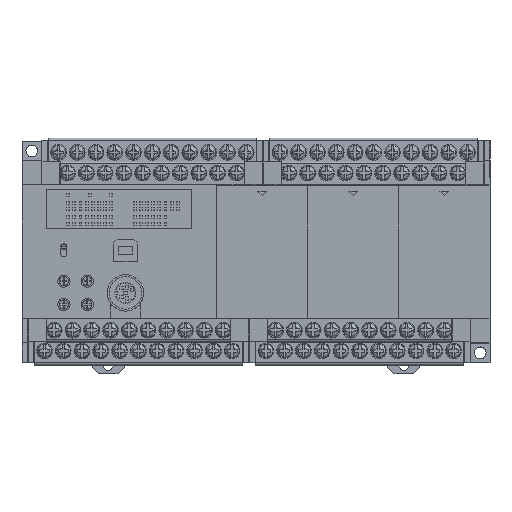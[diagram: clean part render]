
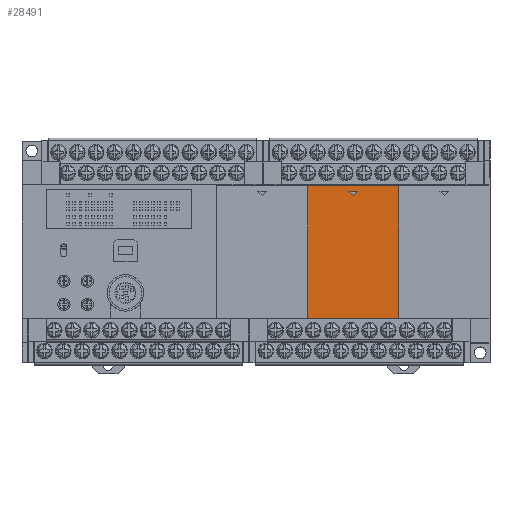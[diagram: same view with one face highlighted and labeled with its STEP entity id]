
A CAD part, top view. The second image highlights one B-rep face of the part: STEP entity #28491.
In plain terms, the highlighted planar face has unit normal (0, 0, 1).
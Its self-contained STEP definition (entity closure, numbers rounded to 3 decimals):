
#28270 = VERTEX_POINT ( 'NONE', #234213 ) ;
#28376 = VERTEX_POINT ( 'NONE', #234723 ) ;
#28388 = EDGE_CURVE ( 'NONE', #28270, #28376, #234718, .T. ) ;
#28396 = VERTEX_POINT ( 'NONE', #234699 ) ;
#28415 = EDGE_CURVE ( 'NONE', #28418, #28396, #234811, .T. ) ;
#28418 = VERTEX_POINT ( 'NONE', #234927 ) ;
#28475 = EDGE_CURVE ( 'NONE', #28376, #28418, #235260, .T. ) ;
#28491 = ADVANCED_FACE ( 'NONE', ( #235181, #235179 ), #235306, .T. ) ;
#28498 = EDGE_LOOP ( 'NONE', ( #28500, #28559, #28572 ) ) ;
#28500 = ORIENTED_EDGE ( 'NONE', *, *, #28505, .F. ) ;
#28505 = EDGE_CURVE ( 'NONE', #28507, #28509, #235281, .T. ) ;
#28507 = VERTEX_POINT ( 'NONE', #235271 ) ;
#28509 = VERTEX_POINT ( 'NONE', #235268 ) ;
#28518 = EDGE_CURVE ( 'NONE', #28396, #28270, #235444, .T. ) ;
#28559 = ORIENTED_EDGE ( 'NONE', *, *, #28565, .F. ) ;
#28565 = EDGE_CURVE ( 'NONE', #28568, #28507, #235522, .T. ) ;
#28568 = VERTEX_POINT ( 'NONE', #235512 ) ;
#28572 = ORIENTED_EDGE ( 'NONE', *, *, #28579, .F. ) ;
#28579 = EDGE_CURVE ( 'NONE', #28509, #28568, #235654, .T. ) ;
#28583 = EDGE_LOOP ( 'NONE', ( #28591, #28594, #28598, #28608 ) ) ;
#28591 = ORIENTED_EDGE ( 'NONE', *, *, #28415, .T. ) ;
#28594 = ORIENTED_EDGE ( 'NONE', *, *, #28518, .T. ) ;
#28598 = ORIENTED_EDGE ( 'NONE', *, *, #28388, .T. ) ;
#28608 = ORIENTED_EDGE ( 'NONE', *, *, #28475, .T. ) ;
#234213 = CARTESIAN_POINT ( 'NONE',  ( 58., -27.1, 79. ) ) ;
#234699 = CARTESIAN_POINT ( 'NONE',  ( 21., -27.1, 79. ) ) ;
#234712 = DIRECTION ( 'NONE',  ( 0., 1., 0. ) ) ;
#234713 = VECTOR ( 'NONE', #234712, 1000. ) ;
#234716 = CARTESIAN_POINT ( 'NONE',  ( 58., 26.7, 79. ) ) ;
#234718 = LINE ( 'NONE', #234716, #234713 ) ;
#234723 = CARTESIAN_POINT ( 'NONE',  ( 58., 26.7, 79. ) ) ;
#234795 = DIRECTION ( 'NONE',  ( 0., -1., 0. ) ) ;
#234796 = VECTOR ( 'NONE', #234795, 1000. ) ;
#234798 = CARTESIAN_POINT ( 'NONE',  ( 21., 26.7, 79. ) ) ;
#234811 = LINE ( 'NONE', #234798, #234796 ) ;
#234927 = CARTESIAN_POINT ( 'NONE',  ( 21., 26.7, 79. ) ) ;
#235179 = FACE_OUTER_BOUND ( 'NONE', #28583, .T. ) ;
#235181 = FACE_BOUND ( 'NONE', #28498, .T. ) ;
#235255 = DIRECTION ( 'NONE',  ( -1., 0., 0. ) ) ;
#235257 = VECTOR ( 'NONE', #235255, 1000. ) ;
#235258 = CARTESIAN_POINT ( 'NONE',  ( 21., 26.7, 79. ) ) ;
#235260 = LINE ( 'NONE', #235258, #235257 ) ;
#235268 = CARTESIAN_POINT ( 'NONE',  ( 41.3, 24.4, 79. ) ) ;
#235271 = CARTESIAN_POINT ( 'NONE',  ( 39.5, 22.6, 79. ) ) ;
#235273 = DIRECTION ( 'NONE',  ( 0.707, 0.707, 0. ) ) ;
#235275 = VECTOR ( 'NONE', #235273, 1000. ) ;
#235279 = CARTESIAN_POINT ( 'NONE',  ( 41.3, 24.4, 79. ) ) ;
#235281 = LINE ( 'NONE', #235279, #235275 ) ;
#235294 = DIRECTION ( 'NONE',  ( 1., 0., 0. ) ) ;
#235295 = DIRECTION ( 'NONE',  ( 0., 0., 1. ) ) ;
#235298 = CARTESIAN_POINT ( 'NONE',  ( 21., -27.1, 79. ) ) ;
#235299 = AXIS2_PLACEMENT_3D ( 'NONE', #235298, #235295, #235294 ) ;
#235306 = PLANE ( 'NONE',  #235299 ) ;
#235439 = DIRECTION ( 'NONE',  ( 1., 0., 0. ) ) ;
#235441 = VECTOR ( 'NONE', #235439, 1000. ) ;
#235443 = CARTESIAN_POINT ( 'NONE',  ( 21., -27.1, 79. ) ) ;
#235444 = LINE ( 'NONE', #235443, #235441 ) ;
#235512 = CARTESIAN_POINT ( 'NONE',  ( 37.7, 24.4, 79. ) ) ;
#235515 = DIRECTION ( 'NONE',  ( 0.707, -0.707, 0. ) ) ;
#235517 = VECTOR ( 'NONE', #235515, 1000. ) ;
#235520 = CARTESIAN_POINT ( 'NONE',  ( 39.5, 22.6, 79. ) ) ;
#235522 = LINE ( 'NONE', #235520, #235517 ) ;
#235637 = DIRECTION ( 'NONE',  ( -1., 0., 0. ) ) ;
#235640 = VECTOR ( 'NONE', #235637, 1000. ) ;
#235641 = CARTESIAN_POINT ( 'NONE',  ( 37.7, 24.4, 79. ) ) ;
#235654 = LINE ( 'NONE', #235641, #235640 ) ;
